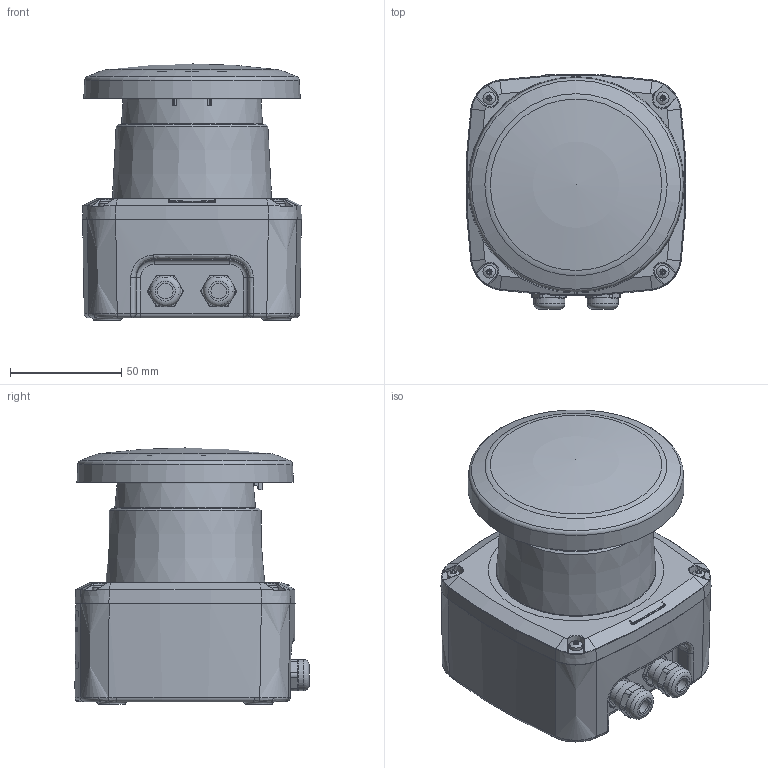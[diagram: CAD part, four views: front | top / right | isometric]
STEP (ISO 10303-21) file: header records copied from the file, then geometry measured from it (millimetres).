
FILE_DESCRIPTION(/* description */ (''),/* implementation_level */ '2;1');
FILE_NAME(/* name */ 'KLM-AP_36_RZ.stp',/* time_stamp */ '2025-01-02T17:01:45+08:00',/* author */ (''),/* organization */ (''),/* preprocessor_version */ 'ST-DEVELOPER v16',/* originating_system */ 'SIEMENS PLM Software NX 10.0',/* authorisation */ '');
FILE_SCHEMA (('AP203_CONFIGURATION_CONTROLLED_3D_DESIGN_OF_MECHANICAL_PARTS_AND_ASSEMBLIES_MIM_LF { 1 0 10303 403 2 1 2}'));
Length unit declared in the file: millimetre
Products named in the file (1): JSB-177C93B9g2t9
Bounding box: 98.64 x 105.28 x 115.07 mm (x, y, z)
Volume: 181730.2 mm3; surface area: 148902.6 mm2
Topology: 19 solids, 19 shells, 2319 faces, 5719 edges, 3455 vertices
Faces by surface type: plane 752, bspline 513, cone 400, cylinder 339, torus 187, extrusion 81, sphere 47
Full cylindrical faces by diameter (mm): 1.25 x3, 1.3 x1, 1.5 x1, 1.7 x1, 2.5 x8, 2.72 x4, 2.874 x4, 4.02 x2, 4.2 x4, 5.6 x4, 7 x4, 10 x4, 10.5 x2, 12 x4, 14 x4, 19 x1, 21 x1
Entity records: 129653 total; most frequent: CARTESIAN_POINT 76385, ORIENTED_EDGE 10668, DIRECTION 8562, EDGE_CURVE 5334, VERTEX_POINT 3361, AXIS2_PLACEMENT_3D 3349, EDGE_LOOP 2657, ADVANCED_FACE 2317
